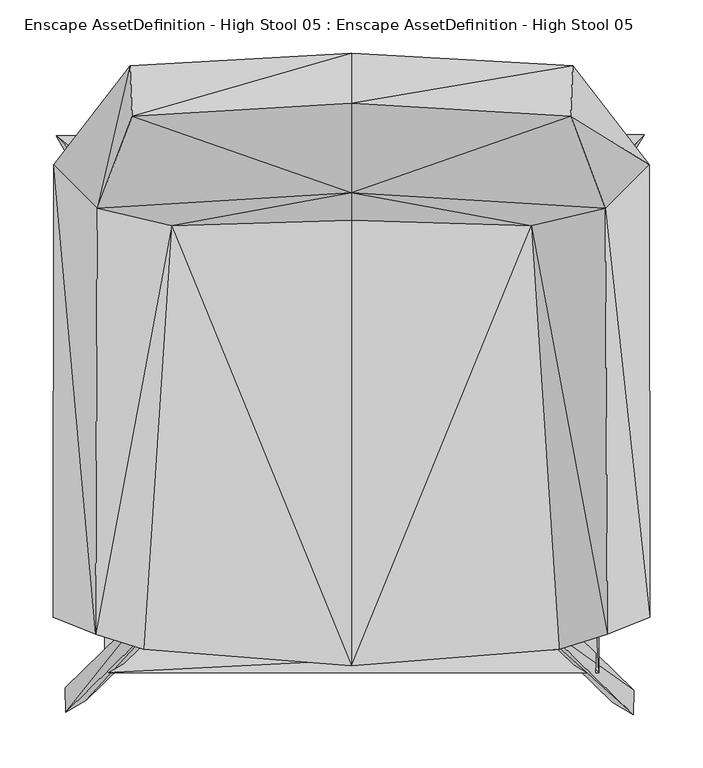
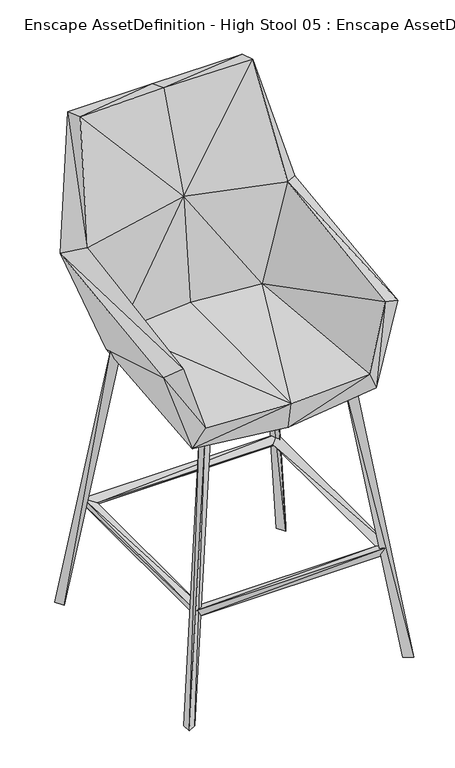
"""IFC4 building model written with IfcOpenShell, lengths in millimetres: geographic element geometry, Enscape AssetDefinition - High Stool 05 : Enscape AssetDefinition - High Stool 05."""

from ifc_helpers import new_model, si_unit, origin, place, context, project, spatial, faceted_brep, source, transform, mapped, element, save


def enscape_assetdefinition_high_stool_05_enscape_95fe6d1b(model_context):
    return source(origin(), model_context, "Body", "Brep", [
        faceted_brep([(205.5127174, 235.7237488, 1184.9586964), (0.0, 164.1700864, 956.3153982), (238.0241603, 149.5086998, 918.6643958), (168.542698, 133.3363503, 696.27285), (-205.5127174, 235.7237488, 1184.9586964), (0.0, 247.7932721, 1177.7956486), (-168.542698, 133.3363503, 696.27285), (2.5e-06, 138.2473707, 705.2851319), (-238.0241603, 149.5086998, 918.6643958), (207.3631883, 282.8040719, 1168.561697), (0.0, 294.465661, 1160.1737738), (-207.3631883, 282.8040719, 1168.561697), (-278.7864804, 190.1477873, 893.9148784), (-239.7540808, -249.1662055, 857.3226929), (3.5e-06, 290.7535434, 938.3921623), (278.7864804, 190.1477873, 893.9148784), (187.4757856, 158.7042511, 640.6190395), (-187.4757856, 158.7042511, 640.6190395), (2.5e-06, 169.0628827, 639.4970417), (-279.2828977, -233.4735692, 838.0632401), (0.0, -264.5271719, 635.2576017), (-218.8994139, -248.1526434, 648.0543017), (218.8994139, -248.1526136, 648.0543017), (279.2828977, -233.4735692, 838.0632401), (194.6080476, -263.250798, 699.9979019), (-3e-07, -278.7938118, 703.1869292), (-194.6080476, -263.250798, 699.9979019), (239.7540808, -249.1662055, 857.3228121)], [[[0, 1, 2]], [[1, 3, 2]], [[4, 1, 5]], [[1, 6, 7]], [[1, 0, 5]], [[3, 1, 7]], [[1, 4, 8]], [[6, 1, 8]], [[9, 5, 0]], [[10, 4, 5]], [[5, 9, 10]], [[11, 8, 4]], [[4, 10, 11]], [[12, 13, 8]], [[13, 6, 8]], [[8, 11, 12]], [[14, 11, 10]], [[11, 14, 12]], [[9, 14, 10]], [[14, 9, 15]], [[0, 15, 9]], [[16, 14, 15]], [[17, 14, 18]], [[14, 16, 18]], [[14, 17, 12]], [[17, 19, 12]], [[13, 12, 19]], [[20, 17, 18]], [[19, 17, 21]], [[17, 20, 21]], [[16, 20, 18]], [[20, 16, 22]], [[23, 16, 15]], [[16, 23, 22]], [[20, 24, 25]], [[24, 20, 22]], [[25, 21, 20]], [[21, 25, 26]], [[26, 19, 21]], [[19, 26, 13]], [[6, 13, 26]], [[25, 6, 26]], [[3, 25, 24]], [[6, 25, 7]], [[25, 3, 7]], [[22, 27, 24]], [[27, 3, 24]], [[27, 22, 23]], [[3, 27, 2]], [[23, 2, 27]], [[2, 23, 15]], [[15, 0, 2]]]),
        faceted_brep([(-180.9591651, -237.5613302, 662.9111767), (-248.3239323, -310.7661605, 0.0), (-163.8682485, -228.5262346, 640.7157183), (-267.8048313, -322.1285343, 0.0), (-268.1807578, -299.4037867, 0.0), (-183.0630302, -216.519177, 646.9076276), (188.6762381, 130.8192462, 662.9121304), (179.6156615, 113.7846932, 640.7177448), (167.6531136, 133.0013573, 646.904707), (274.1231322, 218.6632901, 0.0), (262.7170682, 199.2174238, 0.0), (251.4021397, 219.0998793, 0.0)], [[[0, 1, 2]], [[1, 3, 4]], [[1, 0, 3]], [[4, 2, 1]], [[2, 4, 5]], [[6, 2, 7]], [[2, 6, 0]], [[5, 7, 2]], [[5, 3, 0]], [[8, 0, 6]], [[0, 8, 5]], [[3, 5, 4]], [[7, 5, 8]], [[9, 7, 10]], [[7, 9, 6]], [[8, 10, 7]], [[11, 6, 9]], [[6, 11, 8]], [[10, 8, 11]], [[10, 11, 9]]]),
        faceted_brep([(-192.21811, 130.7727396, 662.9111767), (-265.4229701, 198.1375217, 0.0), (-183.1830144, 113.6818379, 640.7157183), (-276.7853141, 217.6184207, 0.0), (-254.0605962, 217.9943323, 0.0), (-171.1759567, 132.8765899, 646.9076276), (176.1624217, -238.8626784, 662.9121304), (159.1278762, -229.8021019, 640.7177448), (178.3445477, -217.839554, 646.904707), (264.0064657, -324.3095875, 0.0), (244.5605993, -312.9035234, 0.0), (264.4430399, -301.5885949, 0.0)], [[[0, 1, 2]], [[1, 3, 4]], [[1, 0, 3]], [[4, 2, 1]], [[2, 4, 5]], [[6, 2, 7]], [[2, 6, 0]], [[5, 7, 2]], [[5, 3, 0]], [[8, 0, 6]], [[0, 8, 5]], [[3, 5, 4]], [[7, 5, 8]], [[9, 7, 10]], [[7, 9, 6]], [[8, 10, 7]], [[11, 6, 9]], [[6, 11, 8]], [[10, 8, 11]], [[10, 11, 9]]]),
        faceted_brep([(-209.2859596, 158.6306095, 261.4899874), (231.5616161, 180.7568222, 267.4176693), (-231.412977, 180.7576418, 267.4168646), (209.4351202, 158.6303264, 261.4889145), (231.5640301, -285.0631475, 267.4152553), (225.6295383, -279.1286111, 245.2902794), (225.6328464, 174.8280525, 245.2911735), (209.4360143, -262.935102, 261.4921927), (-231.4137816, -285.0623131, 267.41606), (-225.4811972, -279.1297138, 245.2905774), (-225.4822999, 174.8269498, 245.2908754), (-209.2862576, -262.934804, 261.4911199)], [[[0, 1, 2]], [[3, 4, 1]], [[1, 5, 6]], [[1, 0, 3]], [[6, 2, 1]], [[5, 1, 4]], [[7, 8, 4]], [[4, 9, 5]], [[9, 4, 8]], [[4, 3, 7]], [[10, 3, 0]], [[6, 7, 3]], [[3, 10, 6]], [[2, 6, 10]], [[7, 6, 5]], [[5, 11, 7]], [[11, 5, 9]], [[8, 7, 11]], [[11, 2, 8]], [[8, 10, 9]], [[10, 8, 2]], [[9, 0, 11]], [[0, 9, 10]], [[2, 11, 0]]]),
    ])


if __name__ == "__main__":
    model = new_model("IFC4")
    model_context = context("Model", 3, world=origin())
    ifc_project = project(units=[si_unit("LENGTHUNIT", "METRE", prefix="MILLI")], contexts=[model_context])
    site = spatial("IfcSite", under=ifc_project)
    building = spatial("IfcBuilding", under=site)
    placement = place(None, origin())
    enscape_assetdefinition_high_stool_05_enscape_shape = enscape_assetdefinition_high_stool_05_enscape_95fe6d1b(model_context)
    element("IfcGeographicElement", 1, ObjectType="Enscape AssetDefinition - High Stool 05 : Enscape AssetDefinition - High Stool 05", at=placement, inside=building, context=model_context, shape_type="MappedRepresentation", body=[
        mapped(enscape_assetdefinition_high_stool_05_enscape_shape, transform((0.0, 0.0, 0.0), x_axis=(1.0, 0.0, 0.0), y_axis=(0.0, 1.0, 0.0), z_axis=(0.0, 0.0, 1.0))),
    ])
    save(model, "model.ifc")
